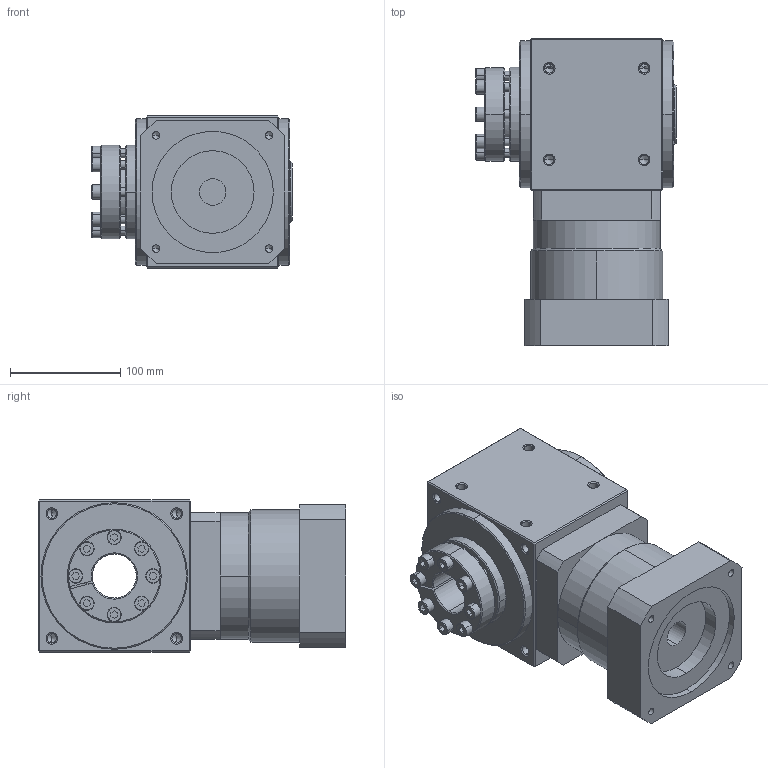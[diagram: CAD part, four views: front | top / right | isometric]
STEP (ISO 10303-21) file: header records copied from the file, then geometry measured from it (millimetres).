
FILE_DESCRIPTION (( 'STEP AP214' ), '1' );
FILE_NAME ('RXW135AS-L1-RFHP-24-110-145-M8.STEP', '2020-11-27T05:17:09', ( '微软用户' ), ( '微软中国' ), 'SwSTEP 2.0', 'SolidWorks 2014', '' );
FILE_SCHEMA (( 'AUTOMOTIVE_DESIGN' ));
Length unit declared in the file: millimetre
Products named in the file (14): [内六角圆柱头螺钉M8×30]_1; 揤啣_1; RXW135AS-L1-RFHP-24-110-145-M8; RXW135AS-L1-RFHP-2000W_1
Assembly tree (10 placements, depth 2):
  [内六角圆柱头螺钉M8×30]_1
  揤啣_1
  [内六角圆柱头螺钉M8×30]_1
  [内六角圆柱头螺钉M8×30]_1
  RXW135AS-L1-RFHP-24-110-145-M8
    RXW135AS-L1-RFHP-2000W_1
    揤啣_1
    [内六角圆柱头螺钉M8×30]_1  x8
Bounding box: 181.5 x 279 x 138 mm (x, y, z)
Volume: 4186716.1 mm3; surface area: 263332.1 mm2
Topology: 10 solids, 10 shells, 468 faces, 1098 edges, 634 vertices
Faces by surface type: cone 153, cylinder 150, plane 133, torus 32
Entity records: 9596 total; most frequent: DIRECTION 1744, CARTESIAN_POINT 1689, ORIENTED_EDGE 1472, EDGE_CURVE 736, AXIS2_PLACEMENT_3D 693, VERTEX_POINT 452, EDGE_LOOP 392, LINE 358
